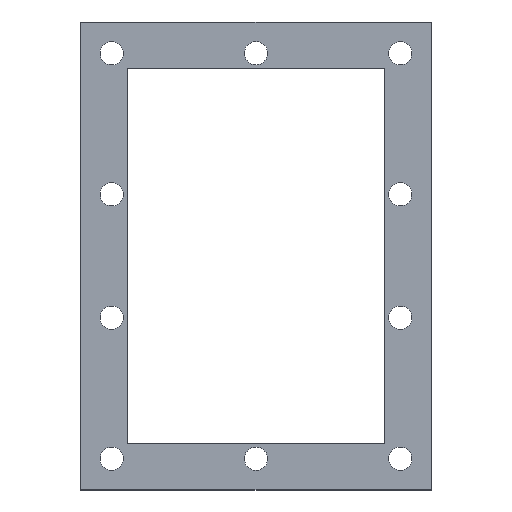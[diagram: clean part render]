
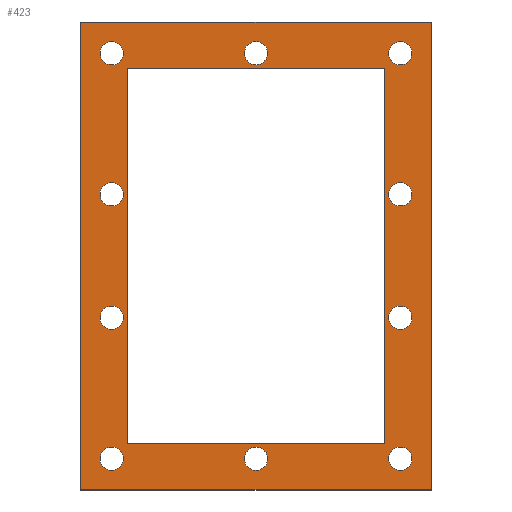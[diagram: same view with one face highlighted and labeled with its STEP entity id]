
A CAD part, top view. The second image highlights one B-rep face of the part: STEP entity #423.
In plain terms, the highlighted planar face has unit normal (0, 0, 1).
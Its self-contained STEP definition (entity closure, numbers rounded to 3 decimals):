
#15=FACE_BOUND('',#106,.T.);
#16=FACE_BOUND('',#107,.T.);
#17=FACE_BOUND('',#108,.T.);
#18=FACE_BOUND('',#109,.T.);
#19=FACE_BOUND('',#110,.T.);
#20=FACE_BOUND('',#111,.T.);
#21=FACE_BOUND('',#112,.T.);
#22=FACE_BOUND('',#113,.T.);
#23=FACE_BOUND('',#114,.T.);
#24=FACE_BOUND('',#115,.T.);
#25=FACE_BOUND('',#116,.T.);
#37=CIRCLE('',#450,3.);
#39=CIRCLE('',#453,3.);
#41=CIRCLE('',#456,3.);
#43=CIRCLE('',#459,3.);
#45=CIRCLE('',#462,3.);
#47=CIRCLE('',#465,3.);
#49=CIRCLE('',#468,3.);
#51=CIRCLE('',#471,3.);
#53=CIRCLE('',#474,3.);
#55=CIRCLE('',#477,3.);
#85=FACE_OUTER_BOUND('',#105,.T.);
#105=EDGE_LOOP('',(#359,#360,#361,#362));
#106=EDGE_LOOP('',(#363));
#107=EDGE_LOOP('',(#364));
#108=EDGE_LOOP('',(#365));
#109=EDGE_LOOP('',(#366));
#110=EDGE_LOOP('',(#367));
#111=EDGE_LOOP('',(#368));
#112=EDGE_LOOP('',(#369));
#113=EDGE_LOOP('',(#370));
#114=EDGE_LOOP('',(#371));
#115=EDGE_LOOP('',(#372));
#116=EDGE_LOOP('',(#373,#374,#375,#376));
#131=LINE('',#609,#165);
#134=LINE('',#615,#168);
#137=LINE('',#621,#171);
#140=LINE('',#625,#174);
#153=LINE('',#693,#187);
#156=LINE('',#699,#190);
#159=LINE('',#705,#193);
#162=LINE('',#709,#196);
#165=VECTOR('',#491,10.);
#168=VECTOR('',#496,10.);
#171=VECTOR('',#501,10.);
#174=VECTOR('',#506,10.);
#187=VECTOR('',#581,10.);
#190=VECTOR('',#586,10.);
#193=VECTOR('',#591,10.);
#196=VECTOR('',#596,10.);
#199=VERTEX_POINT('',#606);
#200=VERTEX_POINT('',#608);
#202=VERTEX_POINT('',#614);
#204=VERTEX_POINT('',#620);
#205=VERTEX_POINT('',#627);
#207=VERTEX_POINT('',#633);
#209=VERTEX_POINT('',#639);
#211=VERTEX_POINT('',#645);
#213=VERTEX_POINT('',#651);
#215=VERTEX_POINT('',#657);
#217=VERTEX_POINT('',#663);
#219=VERTEX_POINT('',#669);
#221=VERTEX_POINT('',#675);
#223=VERTEX_POINT('',#681);
#227=VERTEX_POINT('',#690);
#228=VERTEX_POINT('',#692);
#230=VERTEX_POINT('',#698);
#232=VERTEX_POINT('',#704);
#235=EDGE_CURVE('',#200,#199,#131,.T.);
#238=EDGE_CURVE('',#202,#200,#134,.T.);
#241=EDGE_CURVE('',#204,#202,#137,.T.);
#244=EDGE_CURVE('',#199,#204,#140,.T.);
#245=EDGE_CURVE('',#205,#205,#37,.T.);
#248=EDGE_CURVE('',#207,#207,#39,.T.);
#251=EDGE_CURVE('',#209,#209,#41,.T.);
#254=EDGE_CURVE('',#211,#211,#43,.T.);
#257=EDGE_CURVE('',#213,#213,#45,.T.);
#260=EDGE_CURVE('',#215,#215,#47,.T.);
#263=EDGE_CURVE('',#217,#217,#49,.T.);
#266=EDGE_CURVE('',#219,#219,#51,.T.);
#269=EDGE_CURVE('',#221,#221,#53,.T.);
#272=EDGE_CURVE('',#223,#223,#55,.T.);
#277=EDGE_CURVE('',#228,#227,#153,.T.);
#280=EDGE_CURVE('',#230,#228,#156,.T.);
#283=EDGE_CURVE('',#232,#230,#159,.T.);
#286=EDGE_CURVE('',#227,#232,#162,.T.);
#359=ORIENTED_EDGE('',*,*,#286,.T.);
#360=ORIENTED_EDGE('',*,*,#283,.T.);
#361=ORIENTED_EDGE('',*,*,#280,.T.);
#362=ORIENTED_EDGE('',*,*,#277,.T.);
#363=ORIENTED_EDGE('',*,*,#272,.T.);
#364=ORIENTED_EDGE('',*,*,#269,.T.);
#365=ORIENTED_EDGE('',*,*,#266,.T.);
#366=ORIENTED_EDGE('',*,*,#263,.T.);
#367=ORIENTED_EDGE('',*,*,#260,.T.);
#368=ORIENTED_EDGE('',*,*,#257,.T.);
#369=ORIENTED_EDGE('',*,*,#254,.T.);
#370=ORIENTED_EDGE('',*,*,#251,.T.);
#371=ORIENTED_EDGE('',*,*,#248,.T.);
#372=ORIENTED_EDGE('',*,*,#245,.T.);
#373=ORIENTED_EDGE('',*,*,#244,.T.);
#374=ORIENTED_EDGE('',*,*,#241,.T.);
#375=ORIENTED_EDGE('',*,*,#238,.T.);
#376=ORIENTED_EDGE('',*,*,#235,.T.);
#403=PLANE('',#483);
#423=ADVANCED_FACE('',(#85,#15,#16,#17,#18,#19,#20,#21,#22,#23,#24,#25),
#403,.T.);
#450=AXIS2_PLACEMENT_3D('',#628,#509,#510);
#453=AXIS2_PLACEMENT_3D('',#634,#516,#517);
#456=AXIS2_PLACEMENT_3D('',#640,#523,#524);
#459=AXIS2_PLACEMENT_3D('',#646,#530,#531);
#462=AXIS2_PLACEMENT_3D('',#652,#537,#538);
#465=AXIS2_PLACEMENT_3D('',#658,#544,#545);
#468=AXIS2_PLACEMENT_3D('',#664,#551,#552);
#471=AXIS2_PLACEMENT_3D('',#670,#558,#559);
#474=AXIS2_PLACEMENT_3D('',#676,#565,#566);
#477=AXIS2_PLACEMENT_3D('',#682,#572,#573);
#483=AXIS2_PLACEMENT_3D('',#710,#597,#598);
#491=DIRECTION('',(0.,-1.,0.));
#496=DIRECTION('',(1.,0.,0.));
#501=DIRECTION('',(0.,1.,0.));
#506=DIRECTION('',(-1.,0.,0.));
#509=DIRECTION('center_axis',(0.,0.,-1.));
#510=DIRECTION('ref_axis',(-1.,0.,0.));
#516=DIRECTION('center_axis',(0.,0.,-1.));
#517=DIRECTION('ref_axis',(-1.,0.,0.));
#523=DIRECTION('center_axis',(0.,0.,-1.));
#524=DIRECTION('ref_axis',(-1.,0.,0.));
#530=DIRECTION('center_axis',(0.,0.,-1.));
#531=DIRECTION('ref_axis',(-1.,0.,0.));
#537=DIRECTION('center_axis',(0.,0.,-1.));
#538=DIRECTION('ref_axis',(-1.,0.,0.));
#544=DIRECTION('center_axis',(0.,0.,-1.));
#545=DIRECTION('ref_axis',(-1.,0.,0.));
#551=DIRECTION('center_axis',(0.,0.,-1.));
#552=DIRECTION('ref_axis',(-1.,0.,0.));
#558=DIRECTION('center_axis',(0.,0.,-1.));
#559=DIRECTION('ref_axis',(-1.,0.,0.));
#565=DIRECTION('center_axis',(0.,0.,-1.));
#566=DIRECTION('ref_axis',(-1.,0.,0.));
#572=DIRECTION('center_axis',(0.,0.,-1.));
#573=DIRECTION('ref_axis',(-1.,0.,0.));
#581=DIRECTION('',(-1.,0.,0.));
#586=DIRECTION('',(0.,1.,0.));
#591=DIRECTION('',(1.,0.,0.));
#596=DIRECTION('',(0.,-1.,0.));
#597=DIRECTION('center_axis',(0.,0.,1.));
#598=DIRECTION('ref_axis',(1.,0.,0.));
#606=CARTESIAN_POINT('',(33.,-48.,1.));
#608=CARTESIAN_POINT('',(33.,48.,1.));
#609=CARTESIAN_POINT('',(33.,48.,1.));
#614=CARTESIAN_POINT('',(-33.,48.,1.));
#615=CARTESIAN_POINT('',(-33.,48.,1.));
#620=CARTESIAN_POINT('',(-33.,-48.,1.));
#621=CARTESIAN_POINT('',(-33.,-48.,1.));
#625=CARTESIAN_POINT('',(33.,-48.,1.));
#627=CARTESIAN_POINT('',(40.,52.,1.));
#628=CARTESIAN_POINT('Origin',(37.,52.,1.));
#633=CARTESIAN_POINT('',(-34.,-52.,1.));
#634=CARTESIAN_POINT('Origin',(-37.,-52.,1.));
#639=CARTESIAN_POINT('',(-34.,52.,1.));
#640=CARTESIAN_POINT('Origin',(-37.,52.,1.));
#645=CARTESIAN_POINT('',(40.,-52.,1.));
#646=CARTESIAN_POINT('Origin',(37.,-52.,1.));
#651=CARTESIAN_POINT('',(3.,-52.,1.));
#652=CARTESIAN_POINT('Origin',(0.,-52.,1.));
#657=CARTESIAN_POINT('',(40.,-15.835,1.));
#658=CARTESIAN_POINT('Origin',(37.,-15.835,1.));
#663=CARTESIAN_POINT('',(-34.,15.835,1.));
#664=CARTESIAN_POINT('Origin',(-37.,15.835,1.));
#669=CARTESIAN_POINT('',(-34.,-15.835,1.));
#670=CARTESIAN_POINT('Origin',(-37.,-15.835,1.));
#675=CARTESIAN_POINT('',(3.,52.,1.));
#676=CARTESIAN_POINT('Origin',(0.,52.,1.));
#681=CARTESIAN_POINT('',(40.,15.835,1.));
#682=CARTESIAN_POINT('Origin',(37.,15.835,1.));
#690=CARTESIAN_POINT('',(-45.,60.,1.));
#692=CARTESIAN_POINT('',(45.,60.,1.));
#693=CARTESIAN_POINT('',(45.,60.,1.));
#698=CARTESIAN_POINT('',(45.,-60.,1.));
#699=CARTESIAN_POINT('',(45.,-60.,1.));
#704=CARTESIAN_POINT('',(-45.,-60.,1.));
#705=CARTESIAN_POINT('',(-45.,-60.,1.));
#709=CARTESIAN_POINT('',(-45.,60.,1.));
#710=CARTESIAN_POINT('Origin',(0.,0.,
1.));
